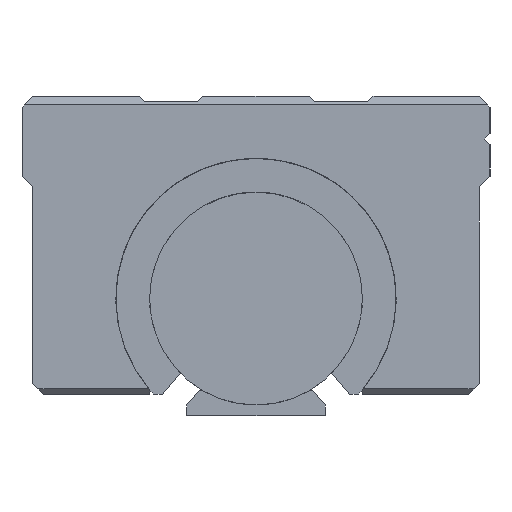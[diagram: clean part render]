
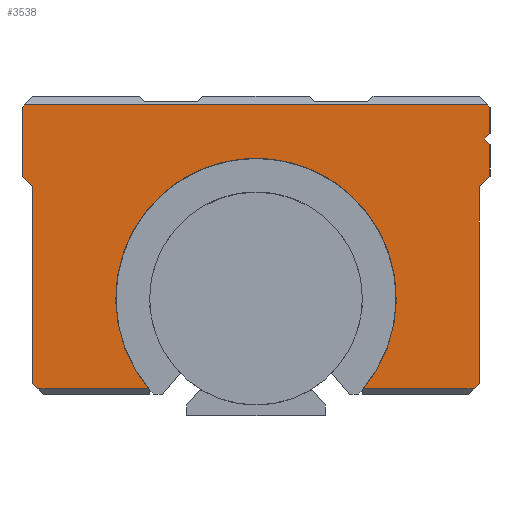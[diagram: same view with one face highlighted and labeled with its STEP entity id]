
A CAD part, left-side view. The second image highlights one B-rep face of the part: STEP entity #3538.
In plain terms, the highlighted planar face has unit normal (-1, 0, 0).
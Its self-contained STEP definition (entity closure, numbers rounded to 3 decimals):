
#3100=CARTESIAN_POINT('',(165.635,-10.066,-8.5));
#3101=VERTEX_POINT('',#3100);
#3109=CARTESIAN_POINT('',(165.635,10.066,-8.5));
#3110=VERTEX_POINT('',#3109);
#3111=CARTESIAN_POINT('',(165.635,0.0,0.));
#3112=DIRECTION('',(-1.0,0.0,0.0));
#3113=DIRECTION('',(0.0,-1.0,0.0));
#3114=AXIS2_PLACEMENT_3D('',#3111,#3112,#3113);
#3115=CIRCLE('',#3114,13.175);
#3116=EDGE_CURVE('',#3101,#3110,#3115,.T.);
#3386=CARTESIAN_POINT('',(165.635,-20.5,-8.5));
#3387=VERTEX_POINT('',#3386);
#3394=CARTESIAN_POINT('',(165.635,-20.5,-8.5));
#3395=DIRECTION('',(0.0,1.0,0.0));
#3396=VECTOR('',#3395,10.434);
#3397=LINE('',#3394,#3396);
#3398=EDGE_CURVE('',#3387,#3101,#3397,.T.);
#3411=CARTESIAN_POINT('',(165.635,-0.048,5.9));
#3412=DIRECTION('',(1.0,0.0,0.0));
#3413=DIRECTION('',(0.0,0.0,-1.0));
#3414=AXIS2_PLACEMENT_3D('',#3411,#3412,#3413);
#3415=PLANE('',#3414);
#3416=ORIENTED_EDGE('',*,*,#3398,.F.);
#3417=CARTESIAN_POINT('',(165.635,-21.,-8.));
#3418=VERTEX_POINT('',#3417);
#3419=CARTESIAN_POINT('',(165.635,-21.,-8.));
#3420=DIRECTION('',(0.0,0.707,-0.707));
#3421=VECTOR('',#3420,0.707);
#3422=LINE('',#3419,#3421);
#3423=EDGE_CURVE('',#3418,#3387,#3422,.T.);
#3424=ORIENTED_EDGE('',*,*,#3423,.F.);
#3425=CARTESIAN_POINT('',(165.635,-21.,10.5));
#3426=VERTEX_POINT('',#3425);
#3427=CARTESIAN_POINT('',(165.635,-21.,10.5));
#3428=DIRECTION('',(0.0,0.0,-1.0));
#3429=VECTOR('',#3428,18.5);
#3430=LINE('',#3427,#3429);
#3431=EDGE_CURVE('',#3426,#3418,#3430,.T.);
#3432=ORIENTED_EDGE('',*,*,#3431,.F.);
#3433=CARTESIAN_POINT('',(165.635,-22.0,11.5));
#3434=VERTEX_POINT('',#3433);
#3435=CARTESIAN_POINT('',(165.635,-22.0,11.5));
#3436=DIRECTION('',(0.0,0.707,-0.707));
#3437=VECTOR('',#3436,1.414);
#3438=LINE('',#3435,#3437);
#3439=EDGE_CURVE('',#3434,#3426,#3438,.T.);
#3440=ORIENTED_EDGE('',*,*,#3439,.F.);
#3441=CARTESIAN_POINT('',(165.635,-22.0,14.5));
#3442=VERTEX_POINT('',#3441);
#3443=CARTESIAN_POINT('',(165.635,-22.0,14.5));
#3444=DIRECTION('',(0.0,0.0,-1.0));
#3445=VECTOR('',#3444,3.);
#3446=LINE('',#3443,#3445);
#3447=EDGE_CURVE('',#3442,#3434,#3446,.T.);
#3448=ORIENTED_EDGE('',*,*,#3447,.F.);
#3449=CARTESIAN_POINT('',(165.635,-21.5,15.));
#3450=VERTEX_POINT('',#3449);
#3451=CARTESIAN_POINT('',(165.635,-21.5,15.));
#3452=DIRECTION('',(0.0,-0.707,-0.707));
#3453=VECTOR('',#3452,0.707);
#3454=LINE('',#3451,#3453);
#3455=EDGE_CURVE('',#3450,#3442,#3454,.T.);
#3456=ORIENTED_EDGE('',*,*,#3455,.F.);
#3457=CARTESIAN_POINT('',(165.635,-22.0,15.5));
#3458=VERTEX_POINT('',#3457);
#3459=CARTESIAN_POINT('',(165.635,-22.0,15.5));
#3460=DIRECTION('',(0.0,0.707,-0.707));
#3461=VECTOR('',#3460,0.707);
#3462=LINE('',#3459,#3461);
#3463=EDGE_CURVE('',#3458,#3450,#3462,.T.);
#3464=ORIENTED_EDGE('',*,*,#3463,.F.);
#3465=CARTESIAN_POINT('',(165.635,-22.0,18.));
#3466=VERTEX_POINT('',#3465);
#3467=CARTESIAN_POINT('',(165.635,-22.0,18.));
#3468=DIRECTION('',(0.0,0.0,-1.0));
#3469=VECTOR('',#3468,2.5);
#3470=LINE('',#3467,#3469);
#3471=EDGE_CURVE('',#3466,#3458,#3470,.T.);
#3472=ORIENTED_EDGE('',*,*,#3471,.F.);
#3473=CARTESIAN_POINT('',(165.635,-21.8,18.2));
#3474=VERTEX_POINT('',#3473);
#3475=CARTESIAN_POINT('',(165.635,-21.8,18.2));
#3476=DIRECTION('',(0.0,-0.707,-0.707));
#3477=VECTOR('',#3476,0.283);
#3478=LINE('',#3475,#3477);
#3479=EDGE_CURVE('',#3474,#3466,#3478,.T.);
#3480=ORIENTED_EDGE('',*,*,#3479,.F.);
#3481=CARTESIAN_POINT('',(165.635,21.8,18.2));
#3482=VERTEX_POINT('',#3481);
#3483=CARTESIAN_POINT('',(165.635,21.8,18.2));
#3484=DIRECTION('',(0.0,-1.0,0.0));
#3485=VECTOR('',#3484,43.6);
#3486=LINE('',#3483,#3485);
#3487=EDGE_CURVE('',#3482,#3474,#3486,.T.);
#3488=ORIENTED_EDGE('',*,*,#3487,.F.);
#3489=CARTESIAN_POINT('',(165.635,22.0,18.0));
#3490=VERTEX_POINT('',#3489);
#3491=CARTESIAN_POINT('',(165.635,22.0,18.0));
#3492=DIRECTION('',(0.0,-0.707,0.707));
#3493=VECTOR('',#3492,0.283);
#3494=LINE('',#3491,#3493);
#3495=EDGE_CURVE('',#3490,#3482,#3494,.T.);
#3496=ORIENTED_EDGE('',*,*,#3495,.F.);
#3497=CARTESIAN_POINT('',(165.635,22.0,11.5));
#3498=VERTEX_POINT('',#3497);
#3499=CARTESIAN_POINT('',(165.635,22.0,11.5));
#3500=DIRECTION('',(0.0,0.0,1.0));
#3501=VECTOR('',#3500,6.5);
#3502=LINE('',#3499,#3501);
#3503=EDGE_CURVE('',#3498,#3490,#3502,.T.);
#3504=ORIENTED_EDGE('',*,*,#3503,.F.);
#3505=CARTESIAN_POINT('',(165.635,21.,10.5));
#3506=VERTEX_POINT('',#3505);
#3507=CARTESIAN_POINT('',(165.635,21.,10.5));
#3508=DIRECTION('',(0.0,0.707,0.707));
#3509=VECTOR('',#3508,1.414);
#3510=LINE('',#3507,#3509);
#3511=EDGE_CURVE('',#3506,#3498,#3510,.T.);
#3512=ORIENTED_EDGE('',*,*,#3511,.F.);
#3513=CARTESIAN_POINT('',(165.635,21.,-8.));
#3514=VERTEX_POINT('',#3513);
#3515=CARTESIAN_POINT('',(165.635,21.,-8.));
#3516=DIRECTION('',(0.0,0.0,1.0));
#3517=VECTOR('',#3516,18.5);
#3518=LINE('',#3515,#3517);
#3519=EDGE_CURVE('',#3514,#3506,#3518,.T.);
#3520=ORIENTED_EDGE('',*,*,#3519,.F.);
#3521=CARTESIAN_POINT('',(165.635,20.5,-8.5));
#3522=VERTEX_POINT('',#3521);
#3523=CARTESIAN_POINT('',(165.635,20.5,-8.5));
#3524=DIRECTION('',(0.0,0.707,0.707));
#3525=VECTOR('',#3524,0.707);
#3526=LINE('',#3523,#3525);
#3527=EDGE_CURVE('',#3522,#3514,#3526,.T.);
#3528=ORIENTED_EDGE('',*,*,#3527,.F.);
#3529=CARTESIAN_POINT('',(165.635,10.066,-8.5));
#3530=DIRECTION('',(0.0,1.0,0.0));
#3531=VECTOR('',#3530,10.434);
#3532=LINE('',#3529,#3531);
#3533=EDGE_CURVE('',#3110,#3522,#3532,.T.);
#3534=ORIENTED_EDGE('',*,*,#3533,.F.);
#3535=ORIENTED_EDGE('',*,*,#3116,.F.);
#3536=EDGE_LOOP('',(#3416,#3424,#3432,#3440,#3448,#3456,#3464,#3472,#3480,#3488,#3496,#3504,#3512,#3520,#3528,#3534,#3535));
#3537=FACE_OUTER_BOUND('',#3536,.T.);
#3538=ADVANCED_FACE('',(#3537),#3415,.F.);
